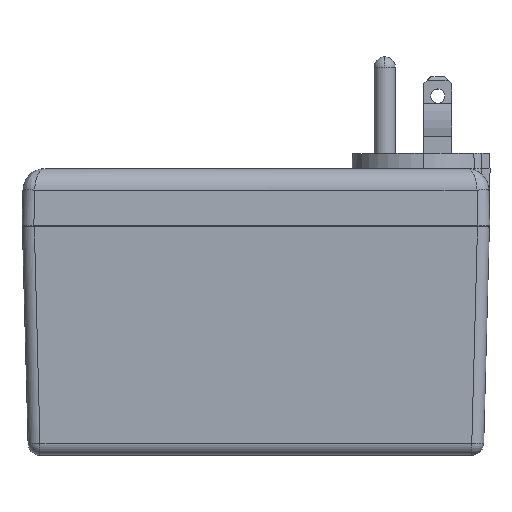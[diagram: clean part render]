
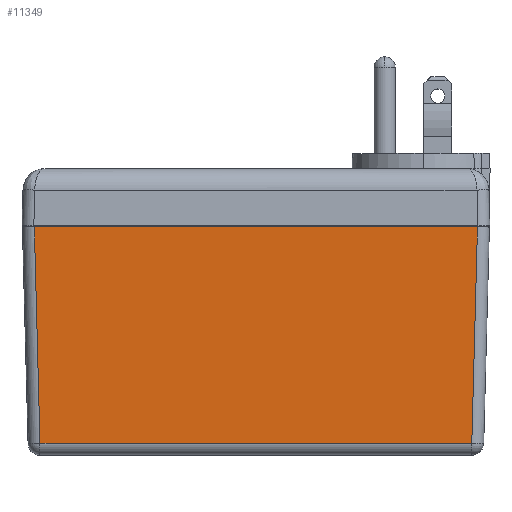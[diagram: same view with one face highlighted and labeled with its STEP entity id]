
A CAD part, top view. The second image highlights one B-rep face of the part: STEP entity #11349.
In plain terms, the highlighted planar face has unit normal (0, -0.026, 1).
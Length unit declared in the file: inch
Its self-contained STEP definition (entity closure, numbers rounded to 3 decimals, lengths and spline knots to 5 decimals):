
#2320 = AXIS2_PLACEMENT_3D ( 'NONE', #4132, #4118, #4117 ) ;
#3496 = EDGE_LOOP ( 'NONE', ( #13272, #13281, #13283, #13291 ) ) ;
#4117 = DIRECTION ( 'NONE',  ( 0., -1., -0.026 ) ) ;
#4118 = DIRECTION ( 'NONE',  ( 0., -0.026, 1. ) ) ;
#4132 = CARTESIAN_POINT ( 'NONE',  ( -2.0545, 0., 1.116 ) ) ;
#4554 = PLANE ( 'NONE',  #2320 ) ;
#8433 = DIRECTION ( 'NONE',  ( 1., 0., 0. ) ) ;
#8455 = CARTESIAN_POINT ( 'NONE',  ( -2.0545, -1.90275, 1.06617 ) ) ;
#8486 = DIRECTION ( 'NONE',  ( 0.026, 0.999, 0.026 ) ) ;
#8488 = DIRECTION ( 'NONE',  ( 0.026, -0.999, -0.026 ) ) ;
#8489 = CARTESIAN_POINT ( 'NONE',  ( -1.94961, 0.00274, 1.11607 ) ) ;
#8490 = DIRECTION ( 'NONE',  ( 1., 0., 0. ) ) ;
#8493 = CARTESIAN_POINT ( 'NONE',  ( 1.94679, -0.10471, 1.11326 ) ) ;
#8496 = CARTESIAN_POINT ( 'NONE',  ( -2.0545, 0., 1.116 ) ) ;
#9499 = FACE_OUTER_BOUND ( 'NONE', #3496, .T. ) ;
#10765 = CARTESIAN_POINT ( 'NONE',  ( -1.94954, 0., 1.116 ) ) ;
#11349 = ADVANCED_FACE ( 'NONE', ( #9499 ), #4554, .T. ) ;
#13272 = ORIENTED_EDGE ( 'NONE', *, *, #19673, .T. ) ;
#13281 = ORIENTED_EDGE ( 'NONE', *, *, #19659, .T. ) ;
#13283 = ORIENTED_EDGE ( 'NONE', *, *, #19657, .F. ) ;
#13291 = ORIENTED_EDGE ( 'NONE', *, *, #19658, .T. ) ;
#15380 = VERTEX_POINT ( 'NONE', #17239 ) ;
#15534 = VERTEX_POINT ( 'NONE', #16903 ) ;
#15569 = VERTEX_POINT ( 'NONE', #16830 ) ;
#16199 = LINE ( 'NONE', #8455, #16217 ) ;
#16217 = VECTOR ( 'NONE', #8433, 39.37008 ) ;
#16242 = VECTOR ( 'NONE', #8486, 39.37008 ) ;
#16244 = VECTOR ( 'NONE', #8488, 39.37008 ) ;
#16246 = LINE ( 'NONE', #8489, #16244 ) ;
#16249 = VECTOR ( 'NONE', #8490, 39.37008 ) ;
#16254 = LINE ( 'NONE', #8496, #16249 ) ;
#16255 = LINE ( 'NONE', #8493, #16242 ) ;
#16830 = CARTESIAN_POINT ( 'NONE',  ( -1.89971, -1.90275, 1.06617 ) ) ;
#16903 = CARTESIAN_POINT ( 'NONE',  ( 1.89971, -1.90275, 1.06617 ) ) ;
#17239 = CARTESIAN_POINT ( 'NONE',  ( 1.94954, 0., 1.116 ) ) ;
#18779 = VERTEX_POINT ( 'NONE', #10765 ) ;
#19657 = EDGE_CURVE ( 'NONE', #18779, #15380, #16254, .T. ) ;
#19658 = EDGE_CURVE ( 'NONE', #18779, #15569, #16246, .T. ) ;
#19659 = EDGE_CURVE ( 'NONE', #15534, #15380, #16255, .T. ) ;
#19673 = EDGE_CURVE ( 'NONE', #15569, #15534, #16199, .T. ) ;
